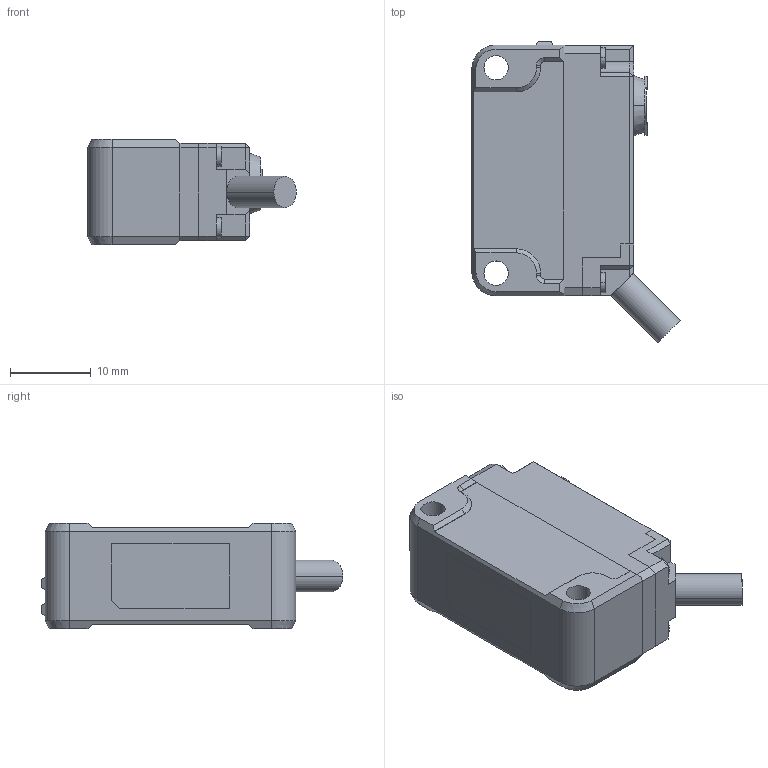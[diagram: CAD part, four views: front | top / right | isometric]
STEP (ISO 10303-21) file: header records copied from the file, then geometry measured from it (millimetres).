
FILE_DESCRIPTION (( 'STEP AP214' ), '1' );
FILE_NAME ('センサー(受光器).STEP', '2025-07-28T03:07:52', ( '' ), ( '' ), 'SwSTEP 2.0', 'SolidWorks 2023', '' );
FILE_SCHEMA (( 'AUTOMOTIVE_DESIGN' ));
Length unit declared in the file: millimetre
Products named in the file (1): センサー(受光器)
Bounding box: 25.77 x 37.32 x 13.1 mm (x, y, z)
Volume: 7294.8 mm3; surface area: 2762.1 mm2
Topology: 1 solids, 1 shells, 226 faces, 591 edges, 382 vertices
Faces by surface type: plane 128, cylinder 83, cone 15
Entity records: 7016 total; most frequent: CARTESIAN_POINT 1252, DIRECTION 1235, ORIENTED_EDGE 1182, EDGE_CURVE 591, AXIS2_PLACEMENT_3D 421, VECTOR 393, LINE 393, VERTEX_POINT 382
